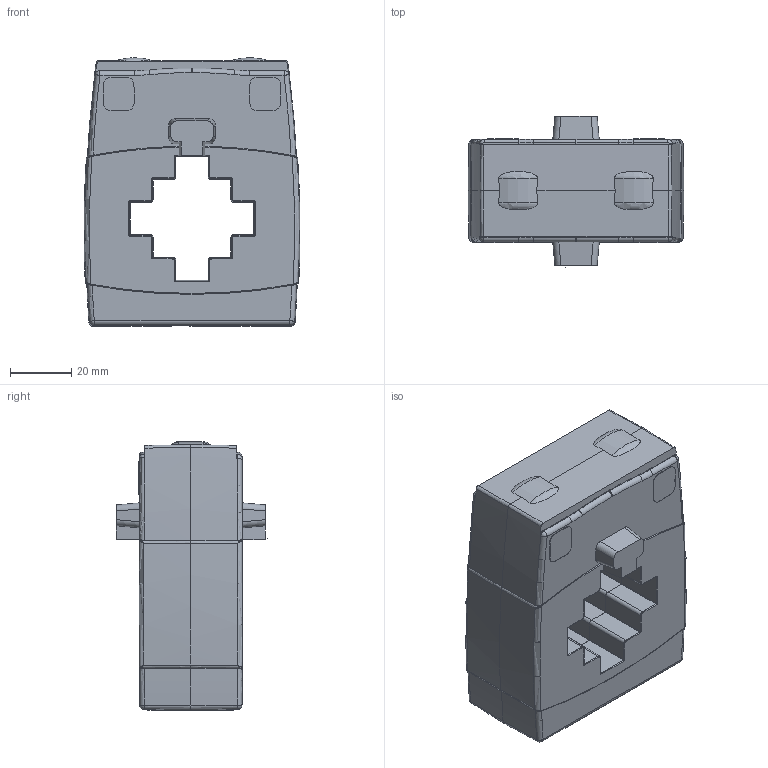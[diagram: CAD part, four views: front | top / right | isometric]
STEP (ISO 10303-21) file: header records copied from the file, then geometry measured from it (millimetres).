
FILE_DESCRIPTION(/* description */ (''),/* implementation_level */ '2;1');
FILE_NAME(/* name */ 'ENT.A40 MN_ICIDOLU.stp',/* time_stamp */ '2021-03-18T11:26:03+03:00',/* author */ (''),/* organization */ (''),/* preprocessor_version */ 'ST-DEVELOPER v16',/* originating_system */ 'SIEMENS PLM Software NX 11.0',/* authorisation */ '');
FILE_SCHEMA (('AUTOMOTIVE_DESIGN { 1 0 10303 214 3 1 1 1 }'));
Length unit declared in the file: millimetre
Products named in the file (1): ENT.A40 MN_ICIDOLU
Bounding box: 70.63 x 49.63 x 87.87 mm (x, y, z)
Volume: 166453.9 mm3; surface area: 25560.2 mm2
Topology: 2 solids, 2 shells, 399 faces, 1049 edges, 643 vertices
Faces by surface type: plane 129, cylinder 125, bspline 95, torus 32, cone 12, sphere 6
Entity records: 14260 total; most frequent: CARTESIAN_POINT 4900, ORIENTED_EDGE 2072, DIRECTION 1857, EDGE_CURVE 1036, AXIS2_PLACEMENT_3D 710, VERTEX_POINT 644, LINE 437, VECTOR 437
